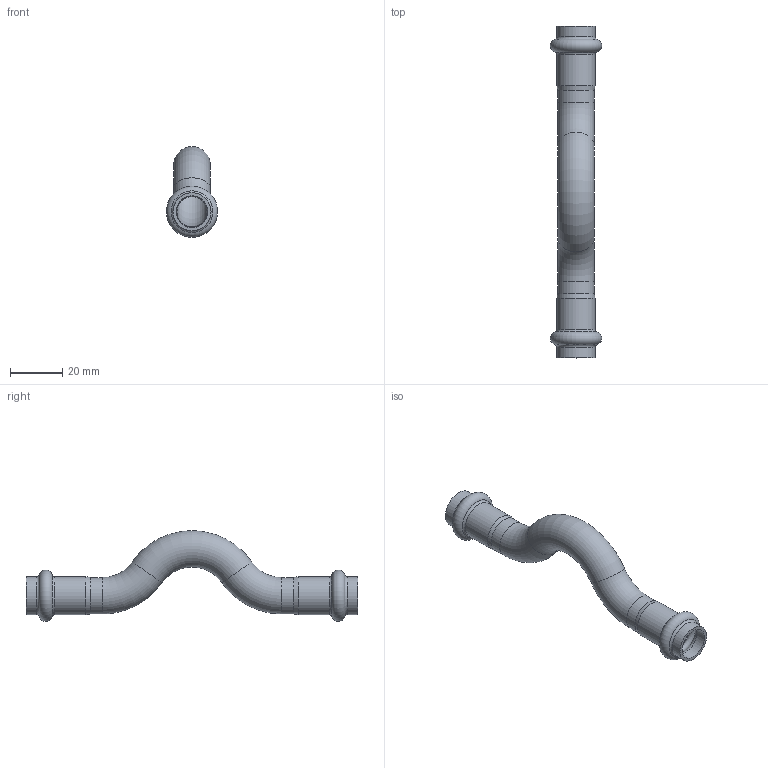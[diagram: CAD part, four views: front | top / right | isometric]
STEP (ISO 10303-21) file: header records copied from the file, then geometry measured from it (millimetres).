
FILE_DESCRIPTION(('STEP AP203'), '1');
FILE_NAME('VTi.971.I.001212', '', ('UNSPECIFIED'), ('UNSPECIFIED'), 'C3D Converter', 'C3D Toolkit', '');
FILE_SCHEMA(('CONFIG_CONTROL_DESIGN'));
Length unit declared in the file: millimetre
Products named in the file (1): ВР.302661.004.000 СБ
Bounding box: 19.69 x 127.5 x 34.84 mm (x, y, z)
Volume: 7699.3 mm3; surface area: 12893.4 mm2
Topology: 2 solids, 2 shells, 38 faces, 80 edges, 44 vertices
Faces by surface type: torus 20, cylinder 12, cone 4, plane 2
Full cylindrical faces by diameter (mm): 11.6 x2, 12.2 x4, 14 x2, 14.6 x4
Entity records: 864 total; most frequent: DIRECTION 164, CARTESIAN_POINT 125, ORIENTED_EDGE 86, AXIS2_PLACEMENT_3D 82, EDGE_LOOP 74, FACE_OUTER_BOUND 58, EDGE_CURVE 43, VERTEX_POINT 43
